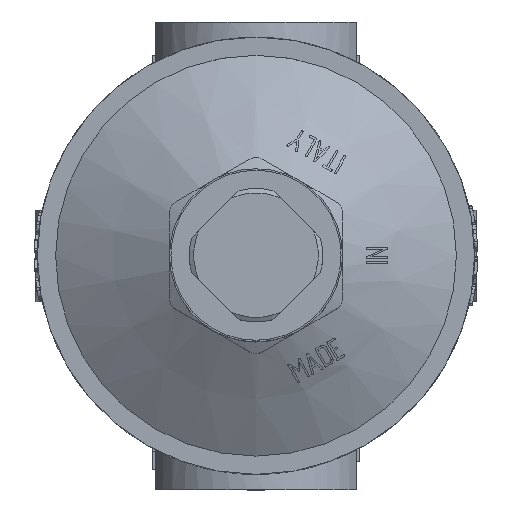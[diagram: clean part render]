
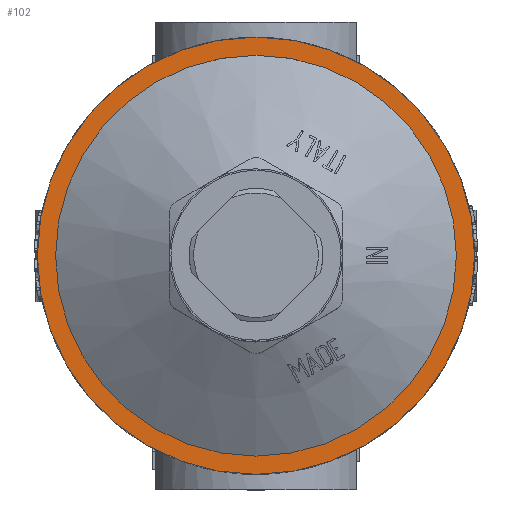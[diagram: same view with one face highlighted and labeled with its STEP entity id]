
A CAD part, top view. The second image highlights one B-rep face of the part: STEP entity #102.
In plain terms, the highlighted planar face has unit normal (0, 0, 1).
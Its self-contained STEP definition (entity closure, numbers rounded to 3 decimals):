
#102=ADVANCED_FACE('',(#1330,#1332),#1334,.T.);
#1330=FACE_BOUND('',#1331,.T.);
#1331=EDGE_LOOP('',(#7761));
#1332=FACE_BOUND('',#1333,.T.);
#1333=EDGE_LOOP('',(#7762));
#1334=PLANE('',#1335);
#1335=AXIS2_PLACEMENT_3D('',#1336,#1337,#1338);
#1336=CARTESIAN_POINT('',(0.,0.,26.5));
#1337=DIRECTION('',(0.,0.,1.));
#1338=DIRECTION('',(0.,1.,0.));
#7761=ORIENTED_EDGE('',*,*,#12990,.T.);
#7762=ORIENTED_EDGE('',*,*,#13384,.T.);
#12990=EDGE_CURVE('',#15363,#15363,#15364,.T.);
#13384=EDGE_CURVE('',#16145,#16145,#16146,.F.);
#15363=VERTEX_POINT('',#20406);
#15364=CIRCLE('',#20407,36.);
#16145=VERTEX_POINT('',#25061);
#16146=CIRCLE('',#25062,33.);
#20406=CARTESIAN_POINT('',(0.,36.,26.5));
#20407=AXIS2_PLACEMENT_3D('',#20408,#20409,#20410);
#20408=CARTESIAN_POINT('',(0.,0.,26.5));
#20409=DIRECTION('',(0.,0.,1.));
#20410=DIRECTION('',(0.,1.,0.));
#25061=CARTESIAN_POINT('',(0.,33.,26.5));
#25062=AXIS2_PLACEMENT_3D('',#25063,#25064,#25065);
#25063=CARTESIAN_POINT('',(0.,0.,26.5));
#25064=DIRECTION('',(0.,0.,1.));
#25065=DIRECTION('',(0.,1.,0.));
